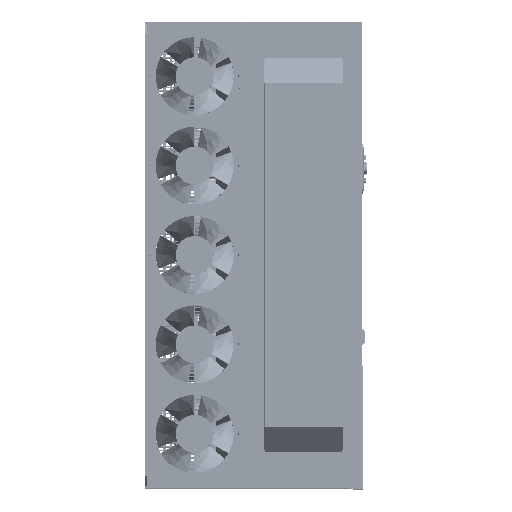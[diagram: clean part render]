
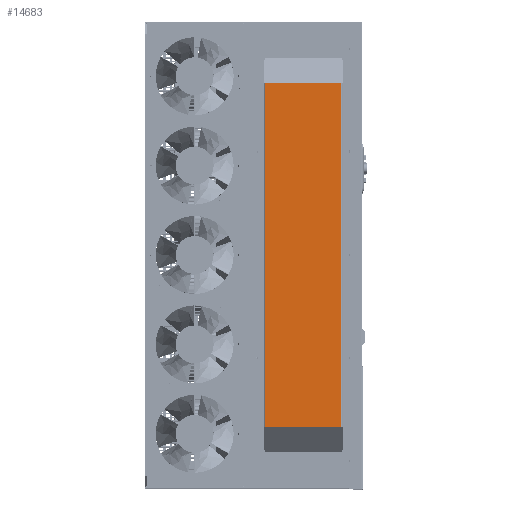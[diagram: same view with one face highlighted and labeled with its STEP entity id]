
A CAD part, top view. The second image highlights one B-rep face of the part: STEP entity #14683.
In plain terms, the highlighted planar face has unit normal (0, 0, 1).
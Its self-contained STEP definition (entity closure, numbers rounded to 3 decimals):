
#14683=ADVANCED_FACE('',(#70551),#70553,.T.);
#70551=FACE_BOUND('',#70552,.T.);
#70552=EDGE_LOOP('',(#142658,#142659,#142660,#142661));
#70553=PLANE('',#70554);
#70554=AXIS2_PLACEMENT_3D('',#70555,#70556,#70557);
#70555=CARTESIAN_POINT('',(0.,0.,1.7));
#70556=DIRECTION('',(0.,0.,1.));
#70557=DIRECTION('',(0.,1.,0.));
#142658=ORIENTED_EDGE('',*,*,#185329,.T.);
#142659=ORIENTED_EDGE('',*,*,#186179,.T.);
#142660=ORIENTED_EDGE('',*,*,#185752,.T.);
#142661=ORIENTED_EDGE('',*,*,#186180,.T.);
#185329=EDGE_CURVE('',#218962,#218960,#218963,.T.);
#185752=EDGE_CURVE('',#219387,#219385,#219388,.T.);
#186179=EDGE_CURVE('',#218960,#219387,#219819,.T.);
#186180=EDGE_CURVE('',#219385,#218962,#219820,.T.);
#218960=VERTEX_POINT('',#285679);
#218962=VERTEX_POINT('',#285684);
#218963=LINE('',#285685,#285686);
#219385=VERTEX_POINT('',#286952);
#219387=VERTEX_POINT('',#286957);
#219388=LINE('',#286958,#286959);
#219819=LINE('',#288248,#288249);
#219820=LINE('',#288251,#288252);
#285679=CARTESIAN_POINT('',(-70.3,-316.655,1.7));
#285684=CARTESIAN_POINT('',(-70.3,316.655,1.7));
#285685=CARTESIAN_POINT('',(-70.3,316.655,1.7));
#285686=VECTOR('',#285687,1.);
#285687=DIRECTION('',(0.,-1.,0.));
#286952=CARTESIAN_POINT('',(70.3,316.655,1.7));
#286957=CARTESIAN_POINT('',(70.3,-316.655,1.7));
#286958=CARTESIAN_POINT('',(70.3,-316.655,1.7));
#286959=VECTOR('',#286960,1.);
#286960=DIRECTION('',(0.,1.,0.));
#288248=CARTESIAN_POINT('',(-70.3,-316.655,1.7));
#288249=VECTOR('',#288250,1.);
#288250=DIRECTION('',(1.,0.,0.));
#288251=CARTESIAN_POINT('',(70.3,316.655,1.7));
#288252=VECTOR('',#288253,1.);
#288253=DIRECTION('',(-1.,0.,0.));
